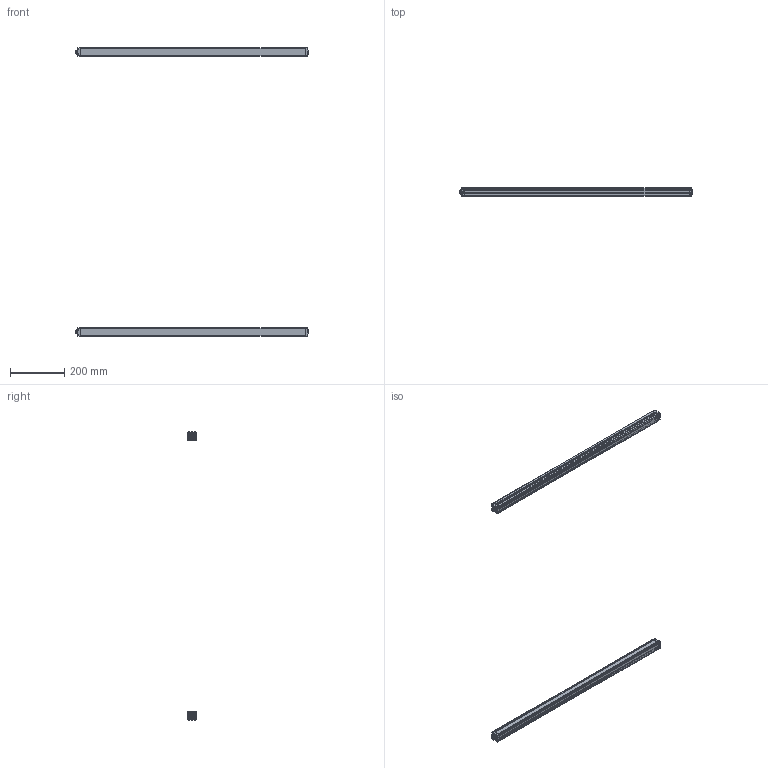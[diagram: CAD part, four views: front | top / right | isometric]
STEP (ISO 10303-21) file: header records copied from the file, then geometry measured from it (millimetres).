
FILE_DESCRIPTION(/* description */ (''),/* implementation_level */ '2;1');
FILE_NAME(/* name */ 'THS10-80.stp',/* time_stamp */ '2023-08-09T16:14:58+08:00',/* author */ (''),/* organization */ (''),/* preprocessor_version */ 'ST-DEVELOPER v16',/* originating_system */ 'SIEMENS PLM Software NX 11.0',/* authorisation */ '');
FILE_SCHEMA (('AP203_CONFIGURATION_CONTROLLED_3D_DESIGN_OF_MECHANICAL_PARTS_AND_ASSEMBLIES_MIM_LF { 1 0 10303 403 2 1 2}'));
Length unit declared in the file: millimetre
Products named in the file (10): 16; 14; 12; 13; 102; 101; 11; ASM0002_ASM; THS10-100; 0
Assembly tree (10 placements, depth 4):
  0
    THS10-100  x2
      11
      101
      102
      13
      12
      ASM0002_ASM
        14
        16
Bounding box: 857 x 30.3 x 1058.6 mm (x, y, z)
Volume: 520876.8 mm3; surface area: 569802.7 mm2
Topology: 10 solids, 14 shells, 1080 faces, 3010 edges, 1986 vertices
Faces by surface type: plane 764, cylinder 288, cone 28
Entity records: 18606 total; most frequent: CARTESIAN_POINT 3165, ORIENTED_EDGE 3006, DIRECTION 2923, EDGE_CURVE 1505, LINE 1173, VECTOR 1173, VERTEX_POINT 993, AXIS2_PLACEMENT_3D 875
